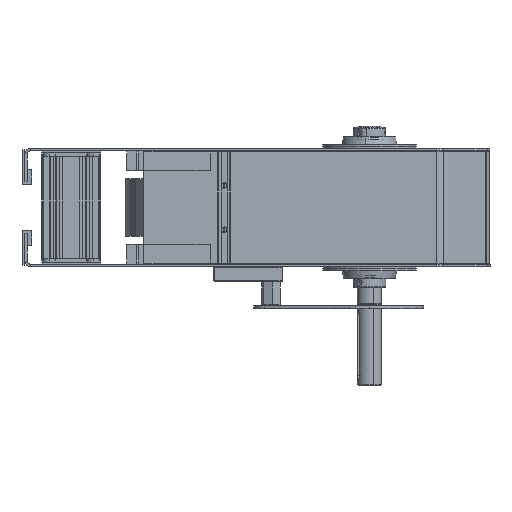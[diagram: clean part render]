
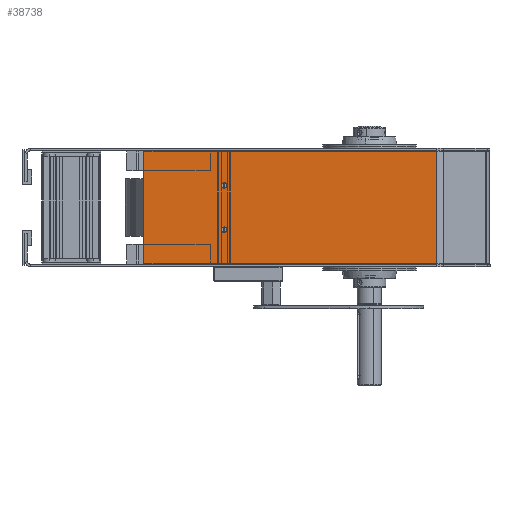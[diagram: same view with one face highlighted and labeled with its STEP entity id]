
A CAD part, left-side view. The second image highlights one B-rep face of the part: STEP entity #38738.
In plain terms, the highlighted planar face has unit normal (-1, 0, 0).
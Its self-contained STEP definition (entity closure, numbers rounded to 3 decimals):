
#398 = CIRCLE ( 'NONE', #54875, 2.75 ) ;
#404 = CIRCLE ( 'NONE', #54880, 2.75 ) ;
#3442 = CIRCLE ( 'NONE', #54971, 2.75 ) ;
#3515 = LINE ( 'NONE', #55019, #3524 ) ;
#3523 = LINE ( 'NONE', #55017, #3530 ) ;
#3524 = VECTOR ( 'NONE', #54983, 1000. ) ;
#3530 = VECTOR ( 'NONE', #55034, 1000. ) ;
#3646 = LINE ( 'NONE', #55576, #3649 ) ;
#3649 = VECTOR ( 'NONE', #55579, 1000. ) ;
#5353 = CARTESIAN_POINT ( 'NONE',  ( -287.877, 93.966, -1.5 ) ) ;
#5391 = CARTESIAN_POINT ( 'NONE',  ( -287.877, 12.466, -84. ) ) ;
#5468 = CARTESIAN_POINT ( 'NONE',  ( -287.877, -202.892, -116. ) ) ;
#5469 = CARTESIAN_POINT ( 'NONE',  ( -287.877, 93.966, -116. ) ) ;
#5556 = CARTESIAN_POINT ( 'NONE',  ( -287.877, 12.466, -78.5 ) ) ;
#5569 = CARTESIAN_POINT ( 'NONE',  ( -287.877, 12.466, -39. ) ) ;
#5571 = CARTESIAN_POINT ( 'NONE',  ( -287.877, 12.466, -33.5 ) ) ;
#5659 = CARTESIAN_POINT ( 'NONE',  ( -287.877, -202.892, -1.5 ) ) ;
#7929 = CARTESIAN_POINT ( 'NONE',  ( -287.877, 12.466, -36.25 ) ) ;
#7930 = DIRECTION ( 'NONE',  ( -1., 0., 0. ) ) ;
#7931 = DIRECTION ( 'NONE',  ( 0., 0., 1. ) ) ;
#9344 = CARTESIAN_POINT ( 'NONE',  ( -287.877, 12.466, -81.25 ) ) ;
#9345 = DIRECTION ( 'NONE',  ( -1., 0., 0. ) ) ;
#9346 = DIRECTION ( 'NONE',  ( 0., 0., 1. ) ) ;
#9354 = CARTESIAN_POINT ( 'NONE',  ( -287.877, 12.466, -36.25 ) ) ;
#9355 = DIRECTION ( 'NONE',  ( -1., 0., 0. ) ) ;
#9356 = DIRECTION ( 'NONE',  ( 0., 0., 1. ) ) ;
#10850 = ORIENTED_EDGE ( 'NONE', *, *, #50695, .F. ) ;
#10857 = ORIENTED_EDGE ( 'NONE', *, *, #16819, .F. ) ;
#10942 = ORIENTED_EDGE ( 'NONE', *, *, #50699, .F. ) ;
#10966 = ORIENTED_EDGE ( 'NONE', *, *, #50847, .T. ) ;
#10969 = ORIENTED_EDGE ( 'NONE', *, *, #50928, .F. ) ;
#10980 = ORIENTED_EDGE ( 'NONE', *, *, #50372, .F. ) ;
#10994 = ORIENTED_EDGE ( 'NONE', *, *, #50850, .T. ) ;
#11007 = ORIENTED_EDGE ( 'NONE', *, *, #50797, .F. ) ;
#11144 = EDGE_LOOP ( 'NONE', ( #10966, #10969, #10857, #10994 ) ) ;
#12275 = AXIS2_PLACEMENT_3D ( 'NONE', #52019, #52017, #52022 ) ;
#16819 = EDGE_CURVE ( 'NONE', #49080, #49082, #43773, .T. ) ;
#23852 = EDGE_LOOP ( 'NONE', ( #10850, #11007 ) ) ;
#23858 = EDGE_LOOP ( 'NONE', ( #10942, #10980 ) ) ;
#26679 = CARTESIAN_POINT ( 'NONE',  ( -287.877, -207.034, -116. ) ) ;
#26689 = DIRECTION ( 'NONE',  ( 0., 1., 0. ) ) ;
#38738 = ADVANCED_FACE ( 'NONE', ( #44437, #44446, #44442 ), #52020, .F. ) ;
#43773 = LINE ( 'NONE', #26679, #43778 ) ;
#43778 = VECTOR ( 'NONE', #26689, 1000. ) ;
#44437 = FACE_BOUND ( 'NONE', #23852, .T. ) ;
#44442 = FACE_OUTER_BOUND ( 'NONE', #11144, .T. ) ;
#44446 = FACE_BOUND ( 'NONE', #23858, .T. ) ;
#48831 = VERTEX_POINT ( 'NONE', #5353 ) ;
#48913 = VERTEX_POINT ( 'NONE', #5391 ) ;
#49080 = VERTEX_POINT ( 'NONE', #5468 ) ;
#49082 = VERTEX_POINT ( 'NONE', #5469 ) ;
#49269 = VERTEX_POINT ( 'NONE', #5556 ) ;
#49293 = VERTEX_POINT ( 'NONE', #5569 ) ;
#49296 = VERTEX_POINT ( 'NONE', #5571 ) ;
#49452 = VERTEX_POINT ( 'NONE', #5659 ) ;
#50372 = EDGE_CURVE ( 'NONE', #49293, #49296, #56492, .T. ) ;
#50695 = EDGE_CURVE ( 'NONE', #49269, #48913, #398, .T. ) ;
#50699 = EDGE_CURVE ( 'NONE', #49296, #49293, #404, .T. ) ;
#50797 = EDGE_CURVE ( 'NONE', #48913, #49269, #3442, .T. ) ;
#50847 = EDGE_CURVE ( 'NONE', #49452, #48831, #3515, .T. ) ;
#50850 = EDGE_CURVE ( 'NONE', #49080, #49452, #3523, .T. ) ;
#50928 = EDGE_CURVE ( 'NONE', #49082, #48831, #3646, .T. ) ;
#52017 = DIRECTION ( 'NONE',  ( 1., 0., 0. ) ) ;
#52019 = CARTESIAN_POINT ( 'NONE',  ( -287.877, -207.034, -116. ) ) ;
#52020 = PLANE ( 'NONE',  #12275 ) ;
#52022 = DIRECTION ( 'NONE',  ( 0., 0., -1. ) ) ;
#54550 = AXIS2_PLACEMENT_3D ( 'NONE', #7929, #7930, #7931 ) ;
#54755 = CARTESIAN_POINT ( 'NONE',  ( -287.877, 12.466, -81.25 ) ) ;
#54757 = DIRECTION ( 'NONE',  ( -1., 0., 0. ) ) ;
#54759 = DIRECTION ( 'NONE',  ( 0., 0., 1. ) ) ;
#54875 = AXIS2_PLACEMENT_3D ( 'NONE', #9344, #9345, #9346 ) ;
#54880 = AXIS2_PLACEMENT_3D ( 'NONE', #9354, #9355, #9356 ) ;
#54971 = AXIS2_PLACEMENT_3D ( 'NONE', #54755, #54757, #54759 ) ;
#54983 = DIRECTION ( 'NONE',  ( 0., 1., 0. ) ) ;
#55017 = CARTESIAN_POINT ( 'NONE',  ( -287.877, -202.892, -116. ) ) ;
#55019 = CARTESIAN_POINT ( 'NONE',  ( -287.877, -207.034, -1.5 ) ) ;
#55034 = DIRECTION ( 'NONE',  ( 0., 0., 1. ) ) ;
#55576 = CARTESIAN_POINT ( 'NONE',  ( -287.877, 93.966, -116. ) ) ;
#55579 = DIRECTION ( 'NONE',  ( 0., 0., 1. ) ) ;
#56492 = CIRCLE ( 'NONE', #54550, 2.75 ) ;
